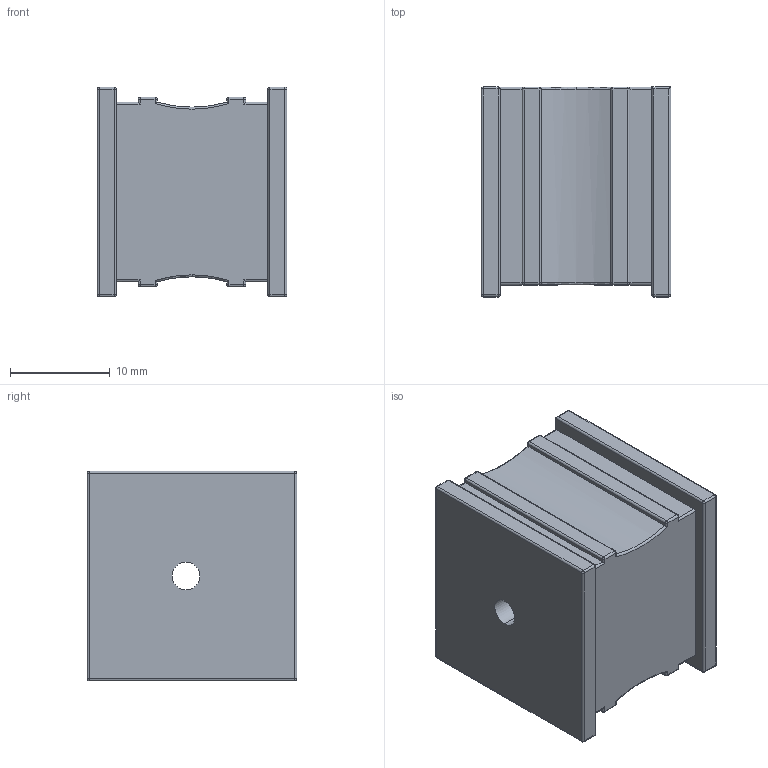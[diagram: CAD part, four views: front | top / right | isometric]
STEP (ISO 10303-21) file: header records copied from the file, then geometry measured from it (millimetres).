
FILE_DESCRIPTION (( 'STEP AP203' ), '1' );
FILE_NAME ('041203 KT3.STEP', '2023-03-07T03:11:44', ( '' ), ( '' ), 'SwSTEP 2.0', 'SolidWorks 2016', '' );
FILE_SCHEMA (( 'CONFIG_CONTROL_DESIGN' ));
Length unit declared in the file: millimetre
Products named in the file (1): 041203 KT3
Bounding box: 19 x 21 x 21 mm (x, y, z)
Volume: 6944.4 mm3; surface area: 2720.6 mm2
Topology: 1 solids, 1 shells, 157 faces, 376 edges, 193 vertices
Faces by surface type: cylinder 71, plane 33, bspline 28, sphere 17, torus 8
Entity records: 5186 total; most frequent: CARTESIAN_POINT 1869, ORIENTED_EDGE 690, DIRECTION 638, EDGE_CURVE 345, AXIS2_PLACEMENT_3D 237, VERTEX_POINT 193, VECTOR 164, LINE 164
